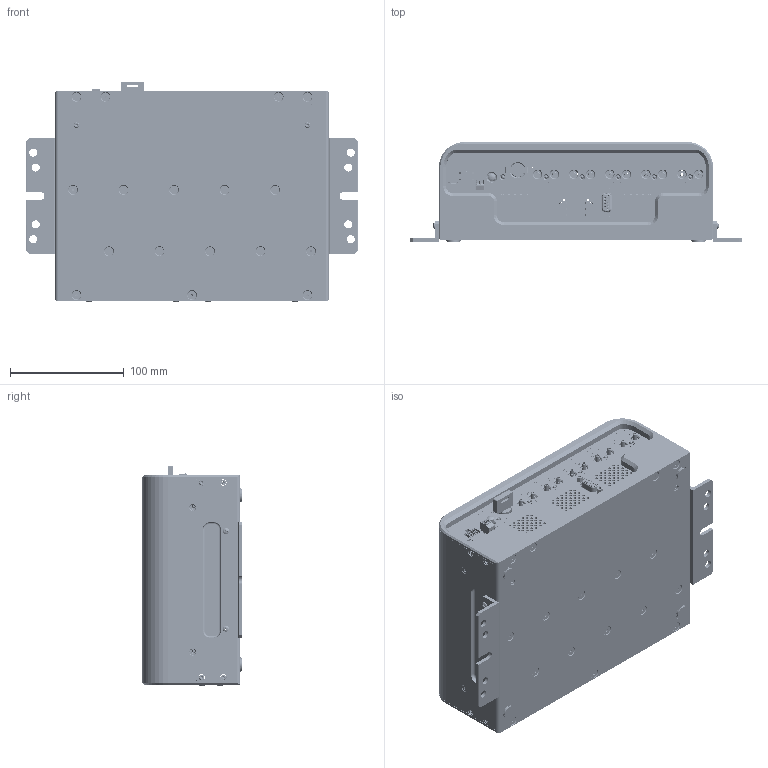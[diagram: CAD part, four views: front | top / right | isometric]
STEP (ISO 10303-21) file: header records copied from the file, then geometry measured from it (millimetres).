
FILE_DESCRIPTION (( 'STEP AP214' ), '1' );
FILE_NAME ('OBIS 5 Laser Engine.STEP', '2013-06-05T19:15:19', ( 'coherent' ), ( '' ), 'SwSTEP 2.0', 'SolidWorks 2012', '' );
FILE_SCHEMA (( 'AUTOMOTIVE_DESIGN' ));
Length unit declared in the file: inch
Products named in the file (1): OBIS 5 Laser Engine
Bounding box: 292.1 x 88.23 x 194.44 mm (x, y, z)
Surface area: 302589 mm2 (no closed solid volume)
Topology: 0 solids, 369 shells, 3861 faces, 16489 edges, 12900 vertices
Faces by surface type: cylinder 2189, plane 1268, cone 285, bspline 62, torus 33, sphere 24
Entity records: 247119 total; most frequent: CARTESIAN_POINT 62136, DIRECTION 28196, ORIENTED_EDGE 23388, EDGE_CURVE 16469, VERTEX_POINT 12900, AXIS2_PLACEMENT_3D 9795, VECTOR 8606, LINE 8606
